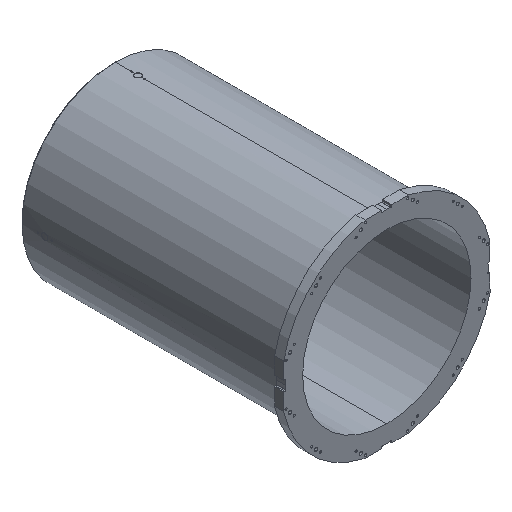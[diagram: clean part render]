
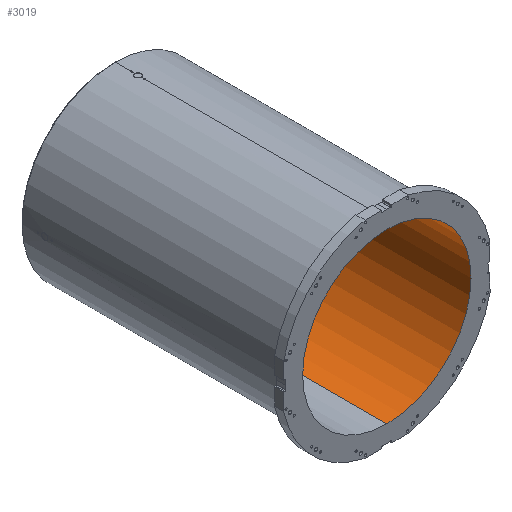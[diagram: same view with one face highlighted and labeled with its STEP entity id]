
A CAD part, isometric view. The second image highlights one B-rep face of the part: STEP entity #3019.
In plain terms, the highlighted cylindrical face has radius 555 mm (diameter 1110 mm), a partial arc.
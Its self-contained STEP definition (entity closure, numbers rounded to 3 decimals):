
#294 = DIRECTION ( 'NONE',  ( 0., -1., 0. ) ) ;
#777 = CARTESIAN_POINT ( 'NONE',  ( 0., 0., 555. ) ) ;
#1229 = CYLINDRICAL_SURFACE ( 'NONE', #11341, 555. ) ;
#1712 = VECTOR ( 'NONE', #12422, 1000. ) ;
#1767 = ORIENTED_EDGE ( 'NONE', *, *, #2208, .F. ) ;
#2208 = EDGE_CURVE ( 'NONE', #12461, #4284, #6317, .T. ) ;
#3019 = ADVANCED_FACE ( 'NONE', ( #7592 ), #1229, .F. ) ;
#3553 = ORIENTED_EDGE ( 'NONE', *, *, #7302, .T. ) ;
#3642 = DIRECTION ( 'NONE',  ( 0., -1., 0. ) ) ;
#4284 = VERTEX_POINT ( 'NONE', #777 ) ;
#4621 = CARTESIAN_POINT ( 'NONE',  ( 0., 1744., -555. ) ) ;
#5413 = VERTEX_POINT ( 'NONE', #4621 ) ;
#5924 = EDGE_CURVE ( 'NONE', #5413, #8976, #12696, .T. ) ;
#6317 = LINE ( 'NONE', #13812, #1712 ) ;
#6829 = DIRECTION ( 'NONE',  ( 0., 0., -1. ) ) ;
#6972 = CARTESIAN_POINT ( 'NONE',  ( 0., 1744., 555. ) ) ;
#7116 = DIRECTION ( 'NONE',  ( 0., 1., 0. ) ) ;
#7246 = CIRCLE ( 'NONE', #7468, 555. ) ;
#7302 = EDGE_CURVE ( 'NONE', #8976, #4284, #12510, .T. ) ;
#7468 = AXIS2_PLACEMENT_3D ( 'NONE', #11600, #7116, #10582 ) ;
#7592 = FACE_OUTER_BOUND ( 'NONE', #8596, .T. ) ;
#7969 = VECTOR ( 'NONE', #11846, 1000. ) ;
#8398 = CARTESIAN_POINT ( 'NONE',  ( 0., 0., -555. ) ) ;
#8467 = CARTESIAN_POINT ( 'NONE',  ( 0., 0., -555. ) ) ;
#8596 = EDGE_LOOP ( 'NONE', ( #1767, #10828, #13282, #3553 ) ) ;
#8976 = VERTEX_POINT ( 'NONE', #8467 ) ;
#10582 = DIRECTION ( 'NONE',  ( 0., 0., -1. ) ) ;
#10828 = ORIENTED_EDGE ( 'NONE', *, *, #13834, .T. ) ;
#10993 = CARTESIAN_POINT ( 'NONE',  ( 0., 0., 0. ) ) ;
#11341 = AXIS2_PLACEMENT_3D ( 'NONE', #10993, #294, #6829 ) ;
#11600 = CARTESIAN_POINT ( 'NONE',  ( 0., 1744., 0. ) ) ;
#11846 = DIRECTION ( 'NONE',  ( 0., -1., 0. ) ) ;
#12200 = DIRECTION ( 'NONE',  ( 0., 0., -1. ) ) ;
#12422 = DIRECTION ( 'NONE',  ( 0., -1., 0. ) ) ;
#12461 = VERTEX_POINT ( 'NONE', #6972 ) ;
#12510 = CIRCLE ( 'NONE', #12970, 555. ) ;
#12696 = LINE ( 'NONE', #8398, #7969 ) ;
#12970 = AXIS2_PLACEMENT_3D ( 'NONE', #13265, #3642, #12200 ) ;
#13265 = CARTESIAN_POINT ( 'NONE',  ( 0., 0., 0. ) ) ;
#13282 = ORIENTED_EDGE ( 'NONE', *, *, #5924, .T. ) ;
#13812 = CARTESIAN_POINT ( 'NONE',  ( 0., 0., 555. ) ) ;
#13834 = EDGE_CURVE ( 'NONE', #12461, #5413, #7246, .T. ) ;
